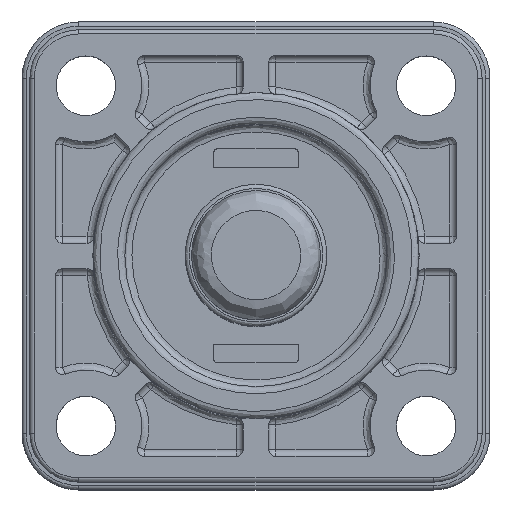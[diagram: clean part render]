
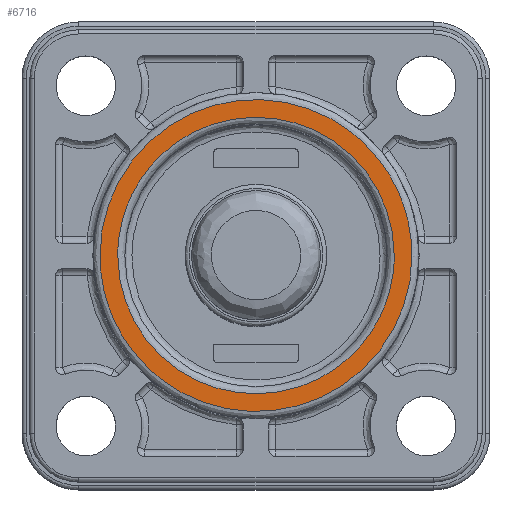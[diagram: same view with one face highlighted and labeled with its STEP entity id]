
A CAD part, top view. The second image highlights one B-rep face of the part: STEP entity #6716.
In plain terms, the highlighted planar face has unit normal (0, 0, 1).
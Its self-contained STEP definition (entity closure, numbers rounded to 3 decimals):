
#188 = CARTESIAN_POINT ( 'NONE',  ( 11.966, -8.124, 16.25 ) ) ;
#280 = CARTESIAN_POINT ( 'NONE',  ( -10.034, 13.876, 16.25 ) ) ;
#773 = ORIENTED_EDGE ( 'NONE', *, *, #2471, .F. ) ;
#1288 = CARTESIAN_POINT ( 'NONE',  ( 10.716, 11.376, 16.25 ) ) ;
#1297 = EDGE_LOOP ( 'NONE', ( #773, #14971 ) ) ;
#2413 = CARTESIAN_POINT ( 'NONE',  ( 11.966, -30.124, 16.25 ) ) ;
#2471 = EDGE_CURVE ( 'NONE', #8148, #6424, #4655, .T. ) ;
#2825 = CARTESIAN_POINT ( 'NONE',  ( 11.966, 13.876, 16.25 ) ) ;
#3811 = CARTESIAN_POINT ( 'NONE',  ( -8.784, 11.376, 16.25 ) ) ;
#3934 = CARTESIAN_POINT ( 'NONE',  ( 10.716, -8.124, 16.25 ) ) ;
#4046 = CARTESIAN_POINT ( 'NONE',  ( -8.284, -8.124, 16.25 ) ) ;
#4655 =( BOUNDED_CURVE ( )  B_SPLINE_CURVE ( 3, ( #11397, #8875, #5148, #3934 ),
 .UNSPECIFIED., .F., .T. ) 
 B_SPLINE_CURVE_WITH_KNOTS ( ( 4, 4 ),
 ( 0., 1. ),
 .UNSPECIFIED. ) 
 CURVE ( )  GEOMETRIC_REPRESENTATION_ITEM ( )  RATIONAL_B_SPLINE_CURVE ( ( 1., 0.333, 0.333, 1. ) ) 
 REPRESENTATION_ITEM ( '' )  );
#5148 = CARTESIAN_POINT ( 'NONE',  ( 10.716, -27.624, 16.25 ) ) ;
#5207 = CARTESIAN_POINT ( 'NONE',  ( -10.034, -30.124, 16.25 ) ) ;
#5323 = DIRECTION ( 'NONE',  ( -1., 0., 0. ) ) ;
#6324 = CARTESIAN_POINT ( 'NONE',  ( -8.784, -8.124, 16.25 ) ) ;
#6424 = VERTEX_POINT ( 'NONE', #15446 ) ;
#6621 =( BOUNDED_CURVE ( )  B_SPLINE_CURVE ( 3, ( #15243, #280, #2825, #11565 ),
 .UNSPECIFIED., .F., .T. ) 
 B_SPLINE_CURVE_WITH_KNOTS ( ( 4, 4 ),
 ( 0., 1. ),
 .UNSPECIFIED. ) 
 CURVE ( )  GEOMETRIC_REPRESENTATION_ITEM ( )  RATIONAL_B_SPLINE_CURVE ( ( 1., 0.333, 0.333, 1. ) ) 
 REPRESENTATION_ITEM ( '' )  );
#6716 = ADVANCED_FACE ( 'NONE', ( #9954, #13236 ), #10221, .F. ) ;
#8132 = VERTEX_POINT ( 'NONE', #13769 ) ;
#8148 = VERTEX_POINT ( 'NONE', #6324 ) ;
#8610 = CARTESIAN_POINT ( 'NONE',  ( 11.966, -8.124, 16.25 ) ) ;
#8803 = EDGE_LOOP ( 'NONE', ( #11346, #10430 ) ) ;
#8875 = CARTESIAN_POINT ( 'NONE',  ( -8.784, -27.624, 16.25 ) ) ;
#9038 = VERTEX_POINT ( 'NONE', #8610 ) ;
#9954 = FACE_OUTER_BOUND ( 'NONE', #8803, .T. ) ;
#10036 = CARTESIAN_POINT ( 'NONE',  ( 10.716, -8.124, 16.25 ) ) ;
#10124 = EDGE_CURVE ( 'NONE', #9038, #8132, #13014, .T. ) ;
#10221 = PLANE ( 'NONE',  #15342 ) ;
#10430 = ORIENTED_EDGE ( 'NONE', *, *, #10124, .F. ) ;
#11137 = EDGE_CURVE ( 'NONE', #8132, #9038, #6621, .T. ) ;
#11346 = ORIENTED_EDGE ( 'NONE', *, *, #11137, .F. ) ;
#11397 = CARTESIAN_POINT ( 'NONE',  ( -8.784, -8.124, 16.25 ) ) ;
#11565 = CARTESIAN_POINT ( 'NONE',  ( 11.966, -8.124, 16.25 ) ) ;
#12518 = CARTESIAN_POINT ( 'NONE',  ( -8.784, -8.124, 16.25 ) ) ;
#12744 = DIRECTION ( 'NONE',  ( 0., 0., -1. ) ) ;
#13014 =( BOUNDED_CURVE ( )  B_SPLINE_CURVE ( 3, ( #188, #2413, #5207, #13896 ),
 .UNSPECIFIED., .F., .T. ) 
 B_SPLINE_CURVE_WITH_KNOTS ( ( 4, 4 ),
 ( 0., 1. ),
 .UNSPECIFIED. ) 
 CURVE ( )  GEOMETRIC_REPRESENTATION_ITEM ( )  RATIONAL_B_SPLINE_CURVE ( ( 1., 0.333, 0.333, 1. ) ) 
 REPRESENTATION_ITEM ( '' )  );
#13236 = FACE_BOUND ( 'NONE', #1297, .T. ) ;
#13769 = CARTESIAN_POINT ( 'NONE',  ( -10.034, -8.124, 16.25 ) ) ;
#13896 = CARTESIAN_POINT ( 'NONE',  ( -10.034, -8.124, 16.25 ) ) ;
#14971 = ORIENTED_EDGE ( 'NONE', *, *, #15632, .F. ) ;
#15243 = CARTESIAN_POINT ( 'NONE',  ( -10.034, -8.124, 16.25 ) ) ;
#15342 = AXIS2_PLACEMENT_3D ( 'NONE', #4046, #12744, #5323 ) ;
#15446 = CARTESIAN_POINT ( 'NONE',  ( 10.716, -8.124, 16.25 ) ) ;
#15632 = EDGE_CURVE ( 'NONE', #6424, #8148, #16104, .T. ) ;
#16104 =( BOUNDED_CURVE ( )  B_SPLINE_CURVE ( 3, ( #10036, #1288, #3811, #12518 ),
 .UNSPECIFIED., .F., .T. ) 
 B_SPLINE_CURVE_WITH_KNOTS ( ( 4, 4 ),
 ( 0., 1. ),
 .UNSPECIFIED. ) 
 CURVE ( )  GEOMETRIC_REPRESENTATION_ITEM ( )  RATIONAL_B_SPLINE_CURVE ( ( 1., 0.333, 0.333, 1. ) ) 
 REPRESENTATION_ITEM ( '' )  );
